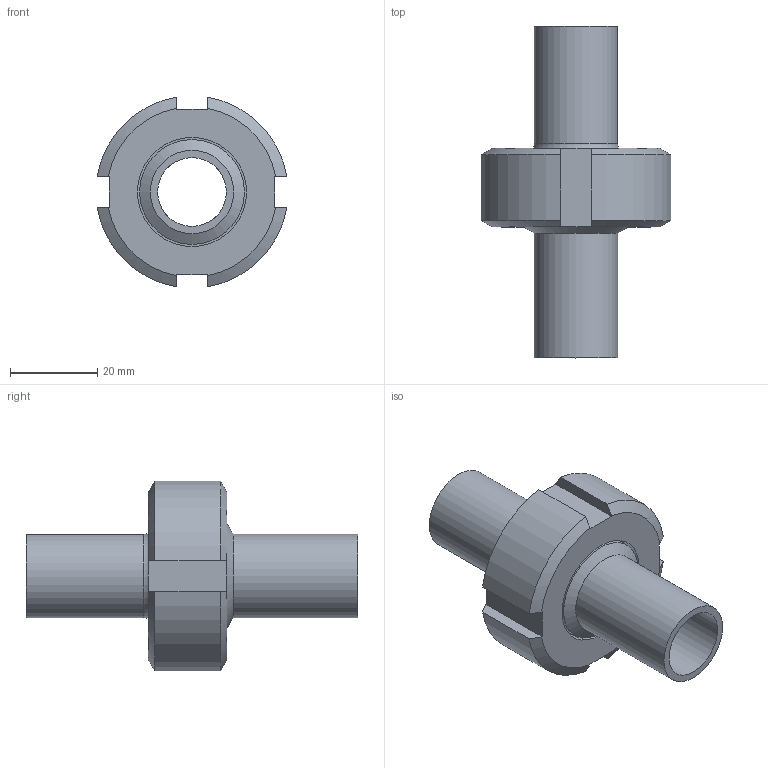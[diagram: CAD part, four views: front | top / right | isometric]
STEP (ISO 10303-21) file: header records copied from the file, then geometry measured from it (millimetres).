
FILE_DESCRIPTION(/* description */ ('Aseptik_Rohrverbindung_DIN 11864-1-A_19,05x1,65_L76'),/* implementation_level */ '2;1');
FILE_NAME(/* name */ 'L:\Normteile\N0024 - Rohrverbindungen\N0024_002 - DIN11864\N0024_002_001 - geschraubt\N0024_002_001\Step Marketing\DIN11864-1-A_19,05x1,65_L76.stp',/* time_stamp */ '2021-08-31T10:28:04+02:00',/* author */ ('Csasse'),/* organization */ ('Dockweiler AG'),/* preprocessor_version */ 'ST-DEVELOPER v18',/* originating_system */ 'Autodesk Inventor 2020',/* authorisation */ '');
FILE_SCHEMA (('AUTOMOTIVE_DESIGN { 1 0 10303 214 3 1 1 }'));
Length unit declared in the file: millimetre
Products named in the file (5): N0024_002_001_50; N0003_007_001_22; N0003_007_002_22; N0005_005_002_001_30; N0009_009_12
Assembly tree (4 placements, depth 2):
  N0024_002_001_50
    N0003_007_001_22
    N0003_007_002_22
    N0005_005_002_001_30
    N0009_009_12
Bounding box: 43.44 x 76 x 43.44 mm (x, y, z)
Volume: 28307.7 mm3; surface area: 18567.3 mm2
Topology: 4 solids, 4 shells, 66 faces, 192 edges, 138 vertices
Faces by surface type: plane 24, cone 16, cylinder 14, torus 12
Full cylindrical faces by diameter (mm): 15.75 x2, 19.05 x2, 24 x1, 25 x1, 27.9 x1, 28 x1, 30.825 x1, 34.318 x1
Entity records: 2538 total; most frequent: DIRECTION 444, CARTESIAN_POINT 437, ORIENTED_EDGE 384, AXIS2_PLACEMENT_3D 193, EDGE_CURVE 192, VERTEX_POINT 138, CIRCLE 118, EDGE_LOOP 78
